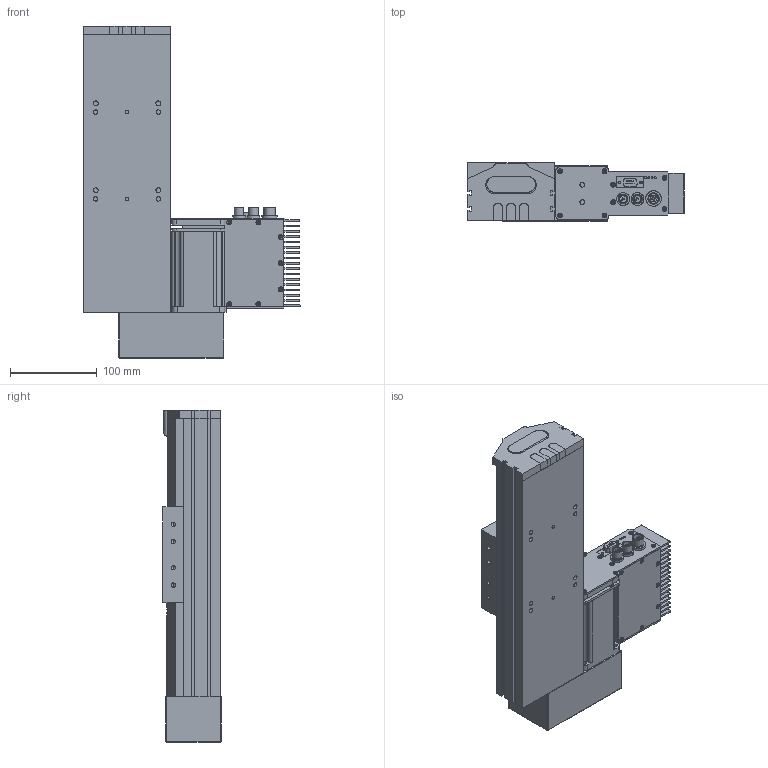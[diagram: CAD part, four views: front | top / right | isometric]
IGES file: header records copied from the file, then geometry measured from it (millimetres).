
Start section: SolidWorks IGES file using analytic representation for surfaces
Global section: file name: C:\Documents and Settings\1EDPI\Mes documents\yanize\S 10 TSH BR\S 10 TSH BR S100.IGS; native system: SolidWorks 2010; preprocessor: SolidWorks 2010; author: 1EDPI; date: 120904.141209; units: millimetre
Bounding box: 249.51 x 67.1 x 382 mm (x, y, z)
Surface area: 478514 mm2 (no closed solid volume)
Topology: 0 solids, 0 shells, 1948 faces, 25756 edges, 25724 vertices
Faces by surface type: revolution 1027, bspline 921
